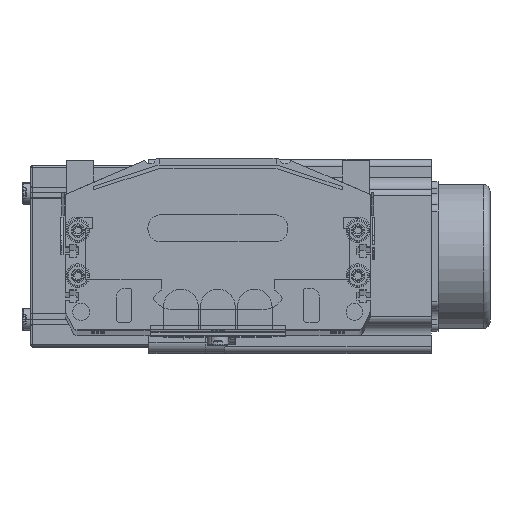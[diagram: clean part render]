
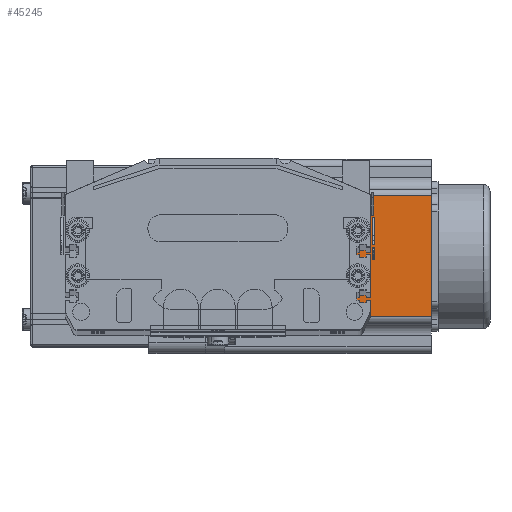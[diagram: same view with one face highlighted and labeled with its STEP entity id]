
A CAD part, top view. The second image highlights one B-rep face of the part: STEP entity #45245.
In plain terms, the highlighted planar face has unit normal (0, 0, 1) as drawn and (-1, 0, 0) by its records, which use the part's own axes.
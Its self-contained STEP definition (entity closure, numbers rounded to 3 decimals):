
#400 = CARTESIAN_POINT ( 'NONE',  ( 0., 0., 91.5 ) ) ;
#441 = DIRECTION ( 'NONE',  ( 0., 0., -1. ) ) ;
#442 = DIRECTION ( 'NONE',  ( 1., 0., 0. ) ) ;
#472 = CARTESIAN_POINT ( 'NONE',  ( 0., 69.74, 91.5 ) ) ;
#475 = PLANE ( 'NONE',  #477 ) ;
#476 = FACE_OUTER_BOUND ( 'NONE', #45214, .T. ) ;
#477 = AXIS2_PLACEMENT_3D ( 'NONE', #400, #442, #441 ) ;
#490 = CARTESIAN_POINT ( 'NONE',  ( 0., 16.16, 0. ) ) ;
#644 = CARTESIAN_POINT ( 'NONE',  ( 0., 69.74, 0. ) ) ;
#654 = CARTESIAN_POINT ( 'NONE',  ( 0., 0., 0. ) ) ;
#655 = LINE ( 'NONE', #654, #723 ) ;
#658 = DIRECTION ( 'NONE',  ( 0., -1., 0. ) ) ;
#659 = VECTOR ( 'NONE', #658, 1000. ) ;
#660 = CARTESIAN_POINT ( 'NONE',  ( 0., 0., 91.5 ) ) ;
#661 = LINE ( 'NONE', #660, #659 ) ;
#666 = DIRECTION ( 'NONE',  ( 0., 0., 1. ) ) ;
#667 = VECTOR ( 'NONE', #666, 1000. ) ;
#668 = CARTESIAN_POINT ( 'NONE',  ( 0., 16.16, 91.5 ) ) ;
#669 = LINE ( 'NONE', #668, #667 ) ;
#722 = DIRECTION ( 'NONE',  ( 0., -1., 0. ) ) ;
#723 = VECTOR ( 'NONE', #722, 1000. ) ;
#737 = CARTESIAN_POINT ( 'NONE',  ( 0., 16.16, 91.5 ) ) ;
#845 = DIRECTION ( 'NONE',  ( 0., 0., -1. ) ) ;
#873 = VECTOR ( 'NONE', #845, 1000. ) ;
#874 = CARTESIAN_POINT ( 'NONE',  ( 0., 69.74, 91.5 ) ) ;
#875 = LINE ( 'NONE', #874, #873 ) ;
#45214 = EDGE_LOOP ( 'NONE', ( #45247, #45351, #45358, #45443 ) ) ;
#45244 = VERTEX_POINT ( 'NONE', #490 ) ;
#45245 = ADVANCED_FACE ( 'NONE', ( #476 ), #475, .F. ) ;
#45246 = VERTEX_POINT ( 'NONE', #472 ) ;
#45247 = ORIENTED_EDGE ( 'NONE', *, *, #45357, .T. ) ;
#45348 = EDGE_CURVE ( 'NONE', #45244, #45350, #669, .T. ) ;
#45350 = VERTEX_POINT ( 'NONE', #737 ) ;
#45351 = ORIENTED_EDGE ( 'NONE', *, *, #45348, .T. ) ;
#45352 = EDGE_CURVE ( 'NONE', #45246, #45350, #661, .T. ) ;
#45357 = EDGE_CURVE ( 'NONE', #45361, #45244, #655, .T. ) ;
#45358 = ORIENTED_EDGE ( 'NONE', *, *, #45352, .F. ) ;
#45361 = VERTEX_POINT ( 'NONE', #644 ) ;
#45443 = ORIENTED_EDGE ( 'NONE', *, *, #45450, .T. ) ;
#45450 = EDGE_CURVE ( 'NONE', #45246, #45361, #875, .T. ) ;
